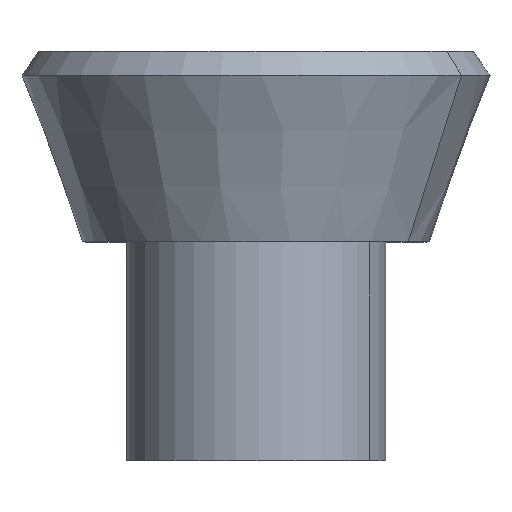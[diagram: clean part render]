
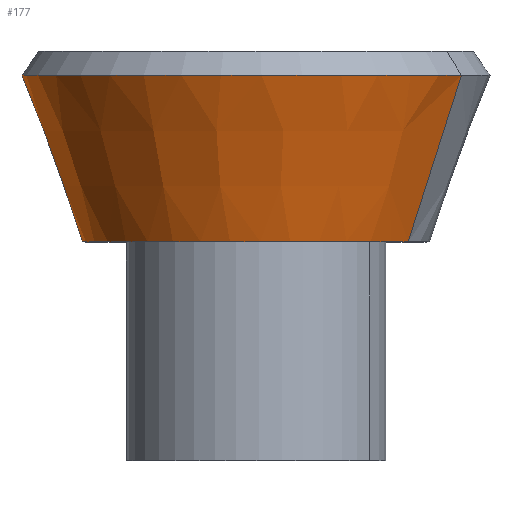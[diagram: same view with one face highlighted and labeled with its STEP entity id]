
A CAD part, top view. The second image highlights one B-rep face of the part: STEP entity #177.
In plain terms, the highlighted conical face has half-angle 20 degrees and reference radius 119 mm.
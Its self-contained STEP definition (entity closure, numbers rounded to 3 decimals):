
#114=CARTESIAN_POINT('Axis2P3D Location',(0.,0.,0.)) ;
#118=CARTESIAN_POINT('Vertex',(104.432,0.,57.052)) ;
#120=CARTESIAN_POINT('Vertex',(-104.432,0.,-57.052)) ;
#147=CARTESIAN_POINT('Axis2P3D Location',(0.,0.,0.)) ;
#152=CARTESIAN_POINT('Line Origine',(122.676,57.117,67.018)) ;
#156=CARTESIAN_POINT('Vertex',(140.92,114.234,76.985)) ;
#159=CARTESIAN_POINT('Axis2P3D Location',(0.,114.234,0.)) ;
#163=CARTESIAN_POINT('Vertex',(-140.92,114.234,-76.985)) ;
#166=CARTESIAN_POINT('Line Origine',(-122.676,57.117,-67.018)) ;
#115=DIRECTION('Axis2P3D Direction',(0.,-1.,0.)) ;
#148=DIRECTION('Axis2P3D Direction',(-0.,1.,-0.)) ;
#149=DIRECTION('Axis2P3D XDirection',(0.878,0.,0.479)) ;
#153=DIRECTION('Vector Direction',(0.3,0.94,0.164)) ;
#160=DIRECTION('Axis2P3D Direction',(0.,1.,-0.)) ;
#167=DIRECTION('Vector Direction',(-0.3,0.94,-0.164)) ;
#116=AXIS2_PLACEMENT_3D('Circle Axis2P3D',#114,#115,$) ;
#150=AXIS2_PLACEMENT_3D('Cone Axis2P3D',#147,#148,#149) ;
#161=AXIS2_PLACEMENT_3D('Circle Axis2P3D',#159,#160,$) ;
#172=ORIENTED_EDGE('',*,*,#122,.F.) ;
#173=ORIENTED_EDGE('',*,*,#158,.T.) ;
#174=ORIENTED_EDGE('',*,*,#165,.T.) ;
#175=ORIENTED_EDGE('',*,*,#170,.F.) ;
#154=VECTOR('Line Direction',#153,1.) ;
#168=VECTOR('Line Direction',#167,1.) ;
#177=ADVANCED_FACE('PartBody',(#176),#151,.T.) ;
#117=CIRCLE('generated circle',#116,119.) ;
#162=CIRCLE('generated circle',#161,160.578) ;
#151=CONICAL_SURFACE('Cone',#150,119.,0.349) ;
#122=EDGE_CURVE('',#119,#121,#117,.T.) ;
#158=EDGE_CURVE('',#119,#157,#155,.T.) ;
#165=EDGE_CURVE('',#157,#164,#162,.F.) ;
#170=EDGE_CURVE('',#121,#164,#169,.T.) ;
#171=EDGE_LOOP('',(#172,#173,#174,#175)) ;
#176=FACE_OUTER_BOUND('',#171,.T.) ;
#155=LINE('Line',#152,#154) ;
#169=LINE('Line',#166,#168) ;
#119=VERTEX_POINT('',#118) ;
#121=VERTEX_POINT('',#120) ;
#157=VERTEX_POINT('',#156) ;
#164=VERTEX_POINT('',#163) ;
